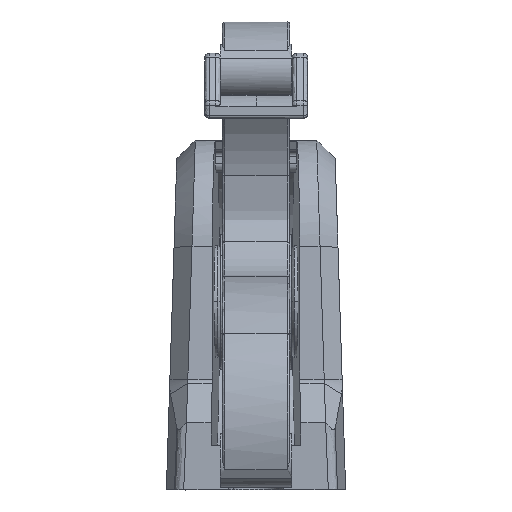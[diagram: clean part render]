
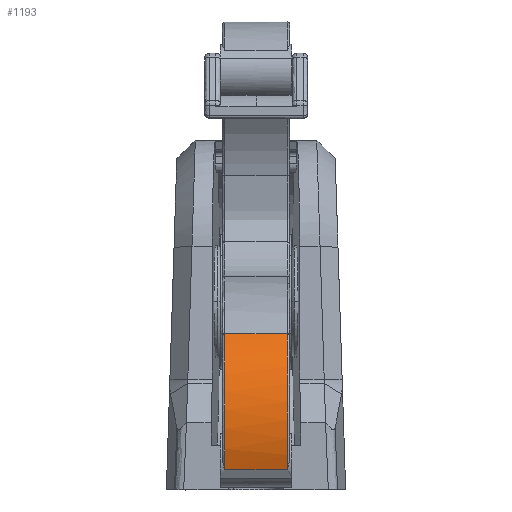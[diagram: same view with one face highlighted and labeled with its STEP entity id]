
A CAD part, left-side view. The second image highlights one B-rep face of the part: STEP entity #1193.
In plain terms, the highlighted free-form (B-spline) face has degree [2, 1] with [3, 2] control points.
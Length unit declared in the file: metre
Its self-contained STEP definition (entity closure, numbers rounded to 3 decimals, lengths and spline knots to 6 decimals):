
#1193 = ADVANCED_FACE( '', ( #2614 ), #2615, .F. );
#2614 = FACE_OUTER_BOUND( '', #10201, .T. );
#2615 = ( BOUNDED_SURFACE(  )B_SPLINE_SURFACE( 2, 1, ( ( #10204, #10205 ), ( #10206, #10207 ), ( #10208, #10209 ) ), .UNSPECIFIED., .F., .F., .F. )B_SPLINE_SURFACE_WITH_KNOTS( ( 3, 3 ), ( 2, 2 ), ( 0., 1. ), ( 0.026667, 0.973333 ), .UNSPECIFIED. )GEOMETRIC_REPRESENTATION_ITEM(  )RATIONAL_B_SPLINE_SURFACE( ( ( 1., 1. ), ( 0.829, 0.829 ), ( 1., 1. ) ) )REPRESENTATION_ITEM( '' )SURFACE(  ) );
#10201 = EDGE_LOOP( '', ( #17828, #17829, #17830, #17831 ) );
#10204 = CARTESIAN_POINT( '', ( -0.042633, -0.0071, 0.034901 ) );
#10205 = CARTESIAN_POINT( '', ( -0.042633, 0.0071, 0.034901 ) );
#10206 = CARTESIAN_POINT( '', ( -0.056626, -0.0071, 0.022207 ) );
#10207 = CARTESIAN_POINT( '', ( -0.056626, 0.0071, 0.022207 ) );
#10208 = CARTESIAN_POINT( '', ( -0.050092, -0.0071, 0.00448 ) );
#10209 = CARTESIAN_POINT( '', ( -0.050092, 0.0071, 0.00448 ) );
#17828 = ORIENTED_EDGE( '', *, *, #20255, .T. );
#17829 = ORIENTED_EDGE( '', *, *, #19373, .F. );
#17830 = ORIENTED_EDGE( '', *, *, #20539, .F. );
#17831 = ORIENTED_EDGE( '', *, *, #20540, .F. );
#19373 = EDGE_CURVE( '', #21174, #21176, #21177, .T. );
#20255 = EDGE_CURVE( '', #22180, #21176, #22588, .F. );
#20539 = EDGE_CURVE( '', #22966, #21174, #22967, .T. );
#20540 = EDGE_CURVE( '', #22180, #22966, #22968, .F. );
#21174 = VERTEX_POINT( '', #23889 );
#21176 = VERTEX_POINT( '', #23903 );
#21177 = ( BOUNDED_CURVE(  )B_SPLINE_CURVE( 1, ( #23906, #23907 ), .UNSPECIFIED., .F., .F. )B_SPLINE_CURVE_WITH_KNOTS( ( 2, 2 ), ( 0.033333, 0.966667 ), .UNSPECIFIED. )CURVE(  )GEOMETRIC_REPRESENTATION_ITEM(  )RATIONAL_B_SPLINE_CURVE( ( 0.89, 0.89 ) )REPRESENTATION_ITEM( '' ) );
#22180 = VERTEX_POINT( '', #30395 );
#22588 = ( BOUNDED_CURVE(  )B_SPLINE_CURVE( 2, ( #33932, #33933, #33934 ), .UNSPECIFIED., .F., .F. )B_SPLINE_CURVE_WITH_KNOTS( ( 3, 3 ), ( 0., 1. ), .UNSPECIFIED. )CURVE(  )GEOMETRIC_REPRESENTATION_ITEM(  )RATIONAL_B_SPLINE_CURVE( ( 1., 0.829, 1. ) )REPRESENTATION_ITEM( '' ) );
#22966 = VERTEX_POINT( '', #36346 );
#22967 = ( BOUNDED_CURVE(  )B_SPLINE_CURVE( 2, ( #36349, #36350, #36351 ), .UNSPECIFIED., .F., .F. )B_SPLINE_CURVE_WITH_KNOTS( ( 3, 3 ), ( 0., 1. ), .UNSPECIFIED. )CURVE(  )GEOMETRIC_REPRESENTATION_ITEM(  )RATIONAL_B_SPLINE_CURVE( ( 1., 0.829, 1. ) )REPRESENTATION_ITEM( '' ) );
#22968 = B_SPLINE_CURVE_WITH_KNOTS( '', 1, ( #36357, #36358 ), .UNSPECIFIED., .F., .F., ( 2, 2 ), ( 0.033333, 0.966667 ), .UNSPECIFIED. );
#23889 = CARTESIAN_POINT( '', ( -0.050092, -0.007, 0.00448 ) );
#23903 = CARTESIAN_POINT( '', ( -0.050092, 0.007, 0.00448 ) );
#23906 = CARTESIAN_POINT( '', ( -0.050092, -0.007, 0.00448 ) );
#23907 = CARTESIAN_POINT( '', ( -0.050092, 0.007, 0.00448 ) );
#30395 = CARTESIAN_POINT( '', ( -0.042633, 0.007, 0.034901 ) );
#33932 = CARTESIAN_POINT( '', ( -0.050092, 0.007, 0.00448 ) );
#33933 = CARTESIAN_POINT( '', ( -0.056626, 0.007, 0.022207 ) );
#33934 = CARTESIAN_POINT( '', ( -0.042633, 0.007, 0.034901 ) );
#36346 = CARTESIAN_POINT( '', ( -0.042633, -0.007, 0.034901 ) );
#36349 = CARTESIAN_POINT( '', ( -0.042633, -0.007, 0.034901 ) );
#36350 = CARTESIAN_POINT( '', ( -0.056626, -0.007, 0.022207 ) );
#36351 = CARTESIAN_POINT( '', ( -0.050092, -0.007, 0.00448 ) );
#36357 = CARTESIAN_POINT( '', ( -0.042633, -0.007, 0.034901 ) );
#36358 = CARTESIAN_POINT( '', ( -0.042633, 0.007, 0.034901 ) );
